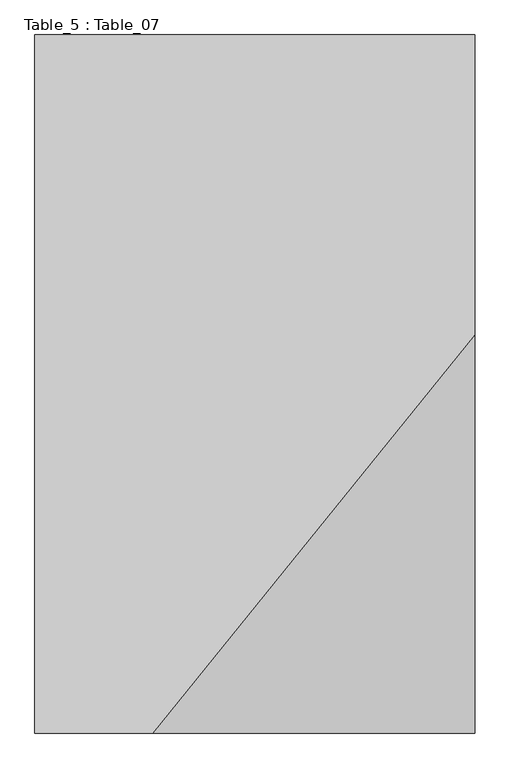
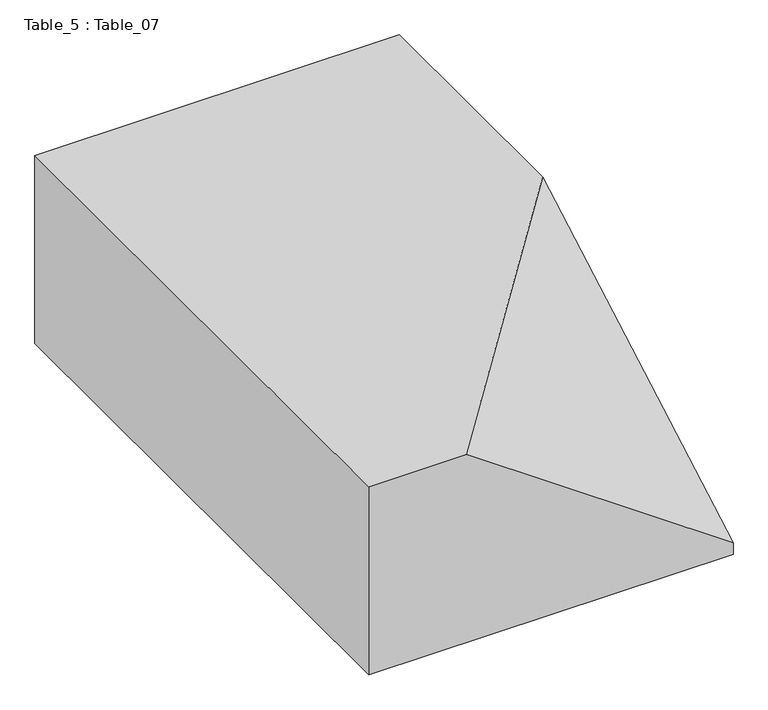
"""IFC4 building model written with IfcOpenShell, lengths in millimetres: furniture geometry, Table_5 : Table_07."""

from ifc_helpers import new_model, si_unit, origin, place, context, project, spatial, faceted_brep, source, transform, mapped, element, save


def table_5_table_07_c8219046(model_context):
    return source(origin(), model_context, "Body", "Brep", [
        faceted_brep([(-2299.2859285, 15201.7503939, 8494.8344815), (-3059.2859285, 15201.7503939, 8494.8344815), (-3059.2859285, 13996.6297718, 8494.8344815), (-2855.8222335, 13996.6297718, 8494.8344815), (-2299.2859285, 14683.8948722, 8494.8344815), (-2299.2859285, 15201.7503939, 8080.0), (-2299.2859285, 13996.6297718, 8080.0), (-3059.2859285, 13996.6297718, 8080.0), (-3059.2859285, 15201.7503939, 8080.0), (-2299.2859285, 13996.6297718, 8105.4007807)], [[[0, 1, 2, 3, 4]], [[5, 6, 7, 8]], [[1, 0, 5, 8]], [[2, 1, 8, 7]], [[7, 6, 9, 3, 2]], [[6, 5, 0, 4, 9]], [[4, 3, 9]]]),
    ])


if __name__ == "__main__":
    model = new_model("IFC4")
    model_context = context("Model", 3, world=origin())
    ifc_project = project(units=[si_unit("LENGTHUNIT", "METRE", prefix="MILLI")], contexts=[model_context])
    site = spatial("IfcSite", under=ifc_project)
    building = spatial("IfcBuilding", under=site)
    placement = place(None, origin())
    table_5_table_07_shape = table_5_table_07_c8219046(model_context)
    element("IfcFurniture", 1, ObjectType="Table_5 : Table_07", at=placement, inside=building, context=model_context, shape_type="MappedRepresentation", body=[
        mapped(table_5_table_07_shape, transform((0.0, 0.0, 0.0), x_axis=(1.0, 0.0, 0.0), y_axis=(0.0, 1.0, 0.0), z_axis=(0.0, 0.0, 1.0))),
    ])
    save(model, "model.ifc")
